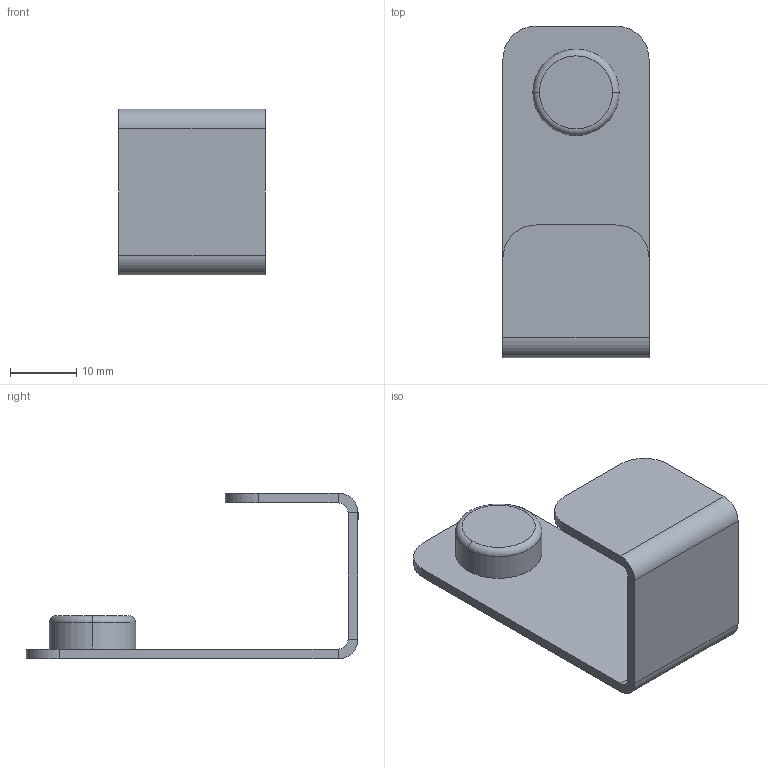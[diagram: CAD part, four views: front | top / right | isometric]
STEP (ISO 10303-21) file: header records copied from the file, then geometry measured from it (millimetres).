
FILE_DESCRIPTION (( 'STEP AP214' ), '1' );
FILE_NAME ('Haczyk na reczniki NUV przykrecany.STEP', '2023-03-27T08:37:05', ( '' ), ( '' ), 'SwSTEP 2.0', 'SolidWorks 2021', '' );
FILE_SCHEMA (( 'AUTOMOTIVE_DESIGN' ));
Length unit declared in the file: millimetre
Products named in the file (3): zaslepka sruby 13mm; Haczyk na reczniki NUV przykrecany; 02-009-0050-W-00-00
Assembly tree (2 placements, depth 2):
  Haczyk na reczniki NUV przykrecany
    02-009-0050-W-00-00
    zaslepka sruby 13mm
Bounding box: 22 x 50 x 25 mm (x, y, z)
Volume: 3537.5 mm3; surface area: 4651.1 mm2
Topology: 2 solids, 2 shells, 34 faces, 72 edges, 42 vertices
Faces by surface type: plane 20, cylinder 12, torus 2
Entity records: 1014 total; most frequent: DIRECTION 178, CARTESIAN_POINT 153, ORIENTED_EDGE 144, EDGE_CURVE 72, AXIS2_PLACEMENT_3D 67, VECTOR 44, LINE 44, VERTEX_POINT 42
